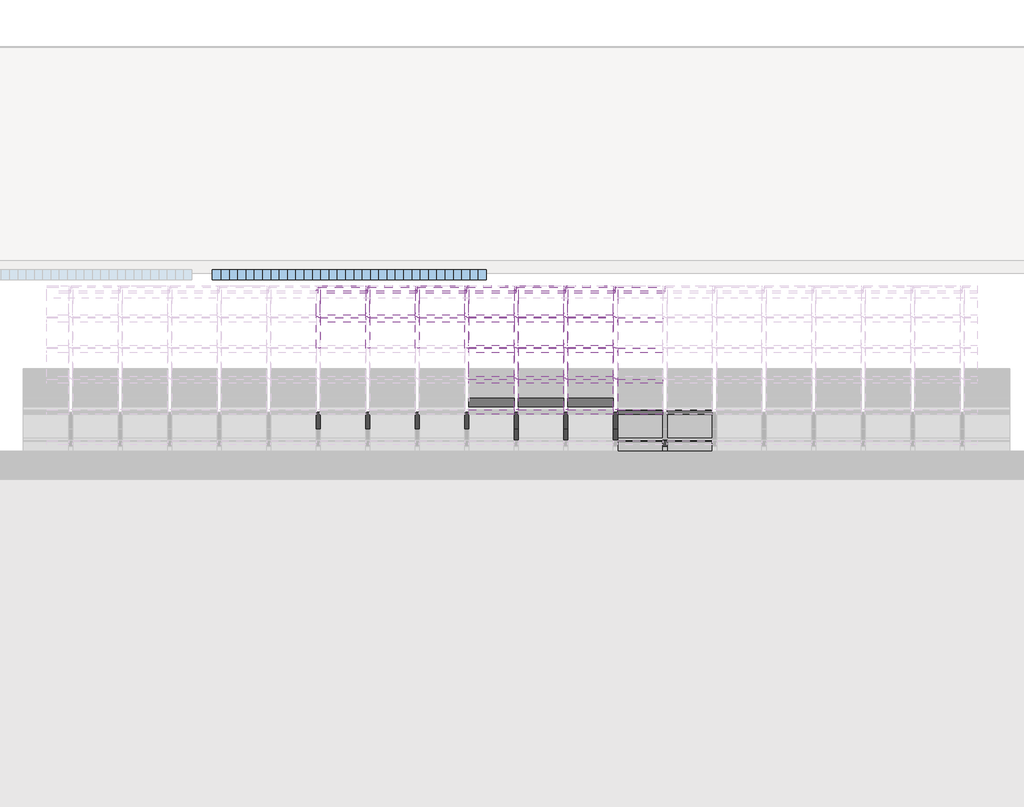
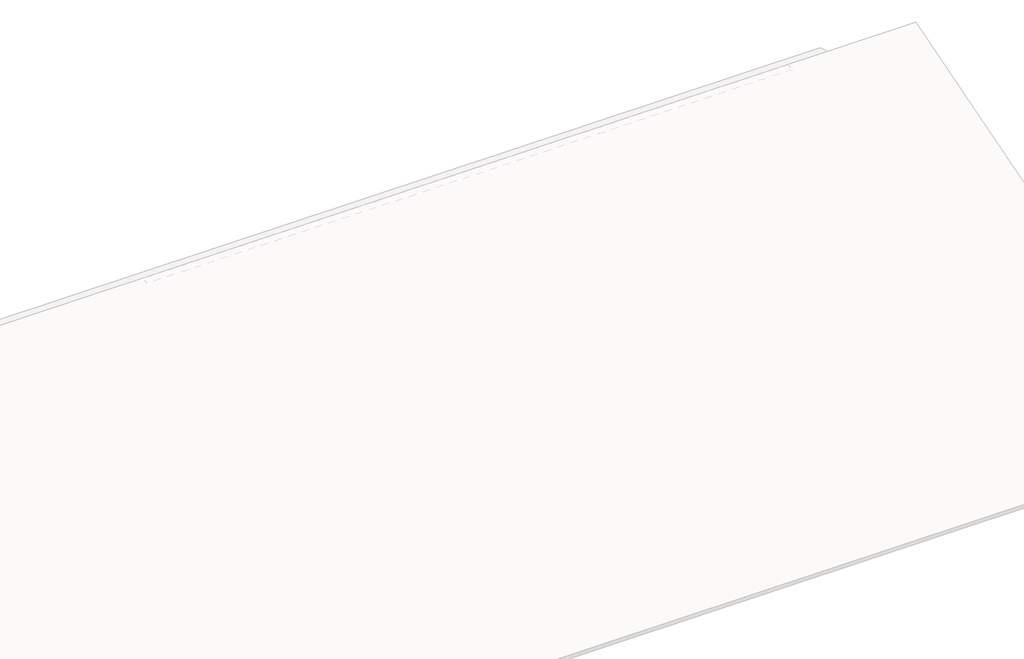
# One storey, part 50 of 57: 90 members, 31 plates, 1 window.
"""IFC4 building model written with IfcOpenShell, lengths in millimetres."""

from ifc_helpers import new_model, si_unit, origin, place, context, project, spatial, transform, mapped, element, save
from components import rectangular_mullion_4c4137b9, rectangular_mullion_59984080, rectangular_mullion_3ac3718c, rectangular_mullion_caibro_df98490b, rectangular_mullion_caibro_e4384bba, rectangular_mullion_caibro_0993a3cf, rectangular_mullion_caibro_650698a1, empty_system_panel_vazio_178faf58, window_60306791, window_6c828501, window_02d14e1e

model = new_model("IFC4")

# Units and contexts
model_context = context("Model", 3, world=origin())
ifc_project = project(units=[si_unit("LENGTHUNIT", "METRE", prefix="MILLI")], contexts=[model_context])

# Site, building, storey
site = spatial("IfcSite", under=ifc_project)
building = spatial("IfcBuilding", under=site)
storey = spatial("IfcBuildingStorey", under=building, Name="Nível 2", Elevation=4100.0)

# Members
placement = place(None, origin())
rectangular_mullion_shape = rectangular_mullion_4c4137b9(model_context)
element("IfcMember", 1, ObjectType="Rectangular Mullion : Ripa", at=placement, inside=storey, context=model_context, shape_type="MappedRepresentation", body=[
    mapped(rectangular_mullion_shape, transform((32201.4732298, 15566.1284427, 5819.8877114), x_axis=(0.0, 0.9578262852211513, 0.2873478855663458), y_axis=(0.0, 0.2873478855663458, -0.9578262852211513), z_axis=(-1.0, 0.0, 0.0))),
])
element("IfcMember", 2, ObjectType="Rectangular Mullion : Ripa", at=placement, inside=storey, context=model_context, shape_type="MappedRepresentation", body=[
    mapped(rectangular_mullion_shape, transform((32798.5279863, 15566.1284427, 5819.8877114), x_axis=(0.0, 0.9578262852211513, 0.2873478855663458), y_axis=(0.0, 0.2873478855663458, -0.9578262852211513), z_axis=(-1.0, 0.0, 0.0))),
])
element("IfcMember", 3, ObjectType="Rectangular Mullion : Ripa", at=placement, inside=storey, context=model_context, shape_type="MappedRepresentation", body=[
    mapped(rectangular_mullion_shape, transform((33395.5827427, 15566.1284427, 5819.8877114), x_axis=(0.0, 0.9578262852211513, 0.2873478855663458), y_axis=(0.0, 0.2873478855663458, -0.9578262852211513), z_axis=(-1.0, 0.0, 0.0))),
])
element("IfcMember", 4, ObjectType="Rectangular Mullion : Ripa", at=placement, inside=storey, context=model_context, shape_type="MappedRepresentation", body=[
    mapped(rectangular_mullion_shape, transform((33992.6374991, 15566.1284427, 5819.8877114), x_axis=(0.0, 0.9578262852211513, 0.2873478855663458), y_axis=(0.0, 0.2873478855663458, -0.9578262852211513), z_axis=(-1.0, 0.0, 0.0))),
])
element("IfcMember", 5, ObjectType="Rectangular Mullion : Ripa", at=placement, inside=storey, context=model_context, shape_type="MappedRepresentation", body=[
    mapped(rectangular_mullion_shape, transform((34589.6922555, 15566.1284427, 5819.8877114), x_axis=(0.0, 0.9578262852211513, 0.2873478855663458), y_axis=(0.0, 0.2873478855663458, -0.9578262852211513), z_axis=(-1.0, 0.0, 0.0))),
])
element("IfcMember", 6, ObjectType="Rectangular Mullion : Ripa", at=placement, inside=storey, context=model_context, shape_type="MappedRepresentation", body=[
    mapped(rectangular_mullion_shape, transform((35186.747012, 15566.1284427, 5819.8877114), x_axis=(0.0, 0.9578262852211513, 0.2873478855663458), y_axis=(0.0, 0.2873478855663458, -0.9578262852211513), z_axis=(-1.0, 0.0, 0.0))),
])
element("IfcMember", 7, ObjectType="Rectangular Mullion : Ripa", at=placement, inside=storey, context=model_context, shape_type="MappedRepresentation", body=[
    mapped(rectangular_mullion_shape, transform((35783.8017684, 15566.1284427, 5819.8877114), x_axis=(0.0, 0.9578262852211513, 0.2873478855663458), y_axis=(0.0, 0.2873478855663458, -0.9578262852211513), z_axis=(-1.0, 0.0, 0.0))),
])
rectangular_mullion_2_shape = rectangular_mullion_59984080(model_context)
element("IfcMember", 8, ObjectType="Rectangular Mullion : Ripa", at=placement, inside=storey, context=model_context, shape_type="MappedRepresentation", body=[
    mapped(rectangular_mullion_2_shape, transform((36405.8565248, 12234.5331147, 4820.409113), x_axis=(0.0, 0.9578262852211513, 0.2873478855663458), y_axis=(0.0, 0.2873478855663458, -0.9578262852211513), z_axis=(-1.0, 0.0, 0.0))),
])
element("IfcMember", 9, ObjectType="Rectangular Mullion : Ripa", at=placement, inside=storey, context=model_context, shape_type="MappedRepresentation", body=[
    mapped(rectangular_mullion_2_shape, transform((37002.9112812, 12234.5331147, 4820.409113), x_axis=(0.0, 0.9578262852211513, 0.2873478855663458), y_axis=(0.0, 0.2873478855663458, -0.9578262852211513), z_axis=(-1.0, 0.0, 0.0))),
])
element("IfcMember", 10, ObjectType="Rectangular Mullion : Ripa", at=placement, inside=storey, context=model_context, shape_type="MappedRepresentation", body=[
    mapped(rectangular_mullion_2_shape, transform((37599.9660377, 12234.5331147, 4820.409113), x_axis=(0.0, 0.9578262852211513, 0.2873478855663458), y_axis=(0.0, 0.2873478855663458, -0.9578262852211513), z_axis=(-1.0, 0.0, 0.0))),
])
element("IfcMember", 11, ObjectType="Rectangular Mullion : Ripa", at=placement, inside=storey, context=model_context, shape_type="MappedRepresentation", body=[
    mapped(rectangular_mullion_2_shape, transform((36405.8565248, 12604.7103734, 4931.4622906), x_axis=(0.0, 0.9578262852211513, 0.2873478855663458), y_axis=(0.0, 0.2873478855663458, -0.9578262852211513), z_axis=(-1.0, 0.0, 0.0))),
])
element("IfcMember", 12, ObjectType="Rectangular Mullion : Ripa", at=placement, inside=storey, context=model_context, shape_type="MappedRepresentation", body=[
    mapped(rectangular_mullion_2_shape, transform((37002.9112812, 12604.7103734, 4931.4622906), x_axis=(0.0, 0.9578262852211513, 0.2873478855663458), y_axis=(0.0, 0.2873478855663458, -0.9578262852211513), z_axis=(-1.0, 0.0, 0.0))),
])
element("IfcMember", 13, ObjectType="Rectangular Mullion : Ripa", at=placement, inside=storey, context=model_context, shape_type="MappedRepresentation", body=[
    mapped(rectangular_mullion_2_shape, transform((37599.9660377, 12604.7103734, 4931.4622906), x_axis=(0.0, 0.9578262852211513, 0.2873478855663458), y_axis=(0.0, 0.2873478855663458, -0.9578262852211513), z_axis=(-1.0, 0.0, 0.0))),
])
element("IfcMember", 14, ObjectType="Rectangular Mullion : Ripa", at=placement, inside=storey, context=model_context, shape_type="MappedRepresentation", body=[
    mapped(rectangular_mullion_2_shape, transform((36405.8565248, 12974.8876321, 5042.5154682), x_axis=(0.0, 0.9578262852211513, 0.2873478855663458), y_axis=(0.0, 0.2873478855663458, -0.9578262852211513), z_axis=(-1.0, 0.0, 0.0))),
])
element("IfcMember", 15, ObjectType="Rectangular Mullion : Ripa", at=placement, inside=storey, context=model_context, shape_type="MappedRepresentation", body=[
    mapped(rectangular_mullion_2_shape, transform((37002.9112812, 12974.8876321, 5042.5154682), x_axis=(0.0, 0.9578262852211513, 0.2873478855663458), y_axis=(0.0, 0.2873478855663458, -0.9578262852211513), z_axis=(-1.0, 0.0, 0.0))),
])
element("IfcMember", 16, ObjectType="Rectangular Mullion : Ripa", at=placement, inside=storey, context=model_context, shape_type="MappedRepresentation", body=[
    mapped(rectangular_mullion_2_shape, transform((37599.9660377, 12974.8876321, 5042.5154682), x_axis=(0.0, 0.9578262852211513, 0.2873478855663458), y_axis=(0.0, 0.2873478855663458, -0.9578262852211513), z_axis=(-1.0, 0.0, 0.0))),
])
element("IfcMember", 17, ObjectType="Rectangular Mullion : Ripa", at=placement, inside=storey, context=model_context, shape_type="MappedRepresentation", body=[
    mapped(rectangular_mullion_2_shape, transform((34017.6374991, 14085.4194081, 5375.675001), x_axis=(0.0, 0.9578262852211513, 0.2873478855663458), y_axis=(0.0, 0.2873478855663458, -0.9578262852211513), z_axis=(-1.0, 0.0, 0.0))),
])
element("IfcMember", 18, ObjectType="Rectangular Mullion : Ripa", at=placement, inside=storey, context=model_context, shape_type="MappedRepresentation", body=[
    mapped(rectangular_mullion_2_shape, transform((34614.6922555, 14085.4194081, 5375.675001), x_axis=(0.0, 0.9578262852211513, 0.2873478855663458), y_axis=(0.0, 0.2873478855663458, -0.9578262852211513), z_axis=(-1.0, 0.0, 0.0))),
])
element("IfcMember", 19, ObjectType="Rectangular Mullion : Ripa", at=placement, inside=storey, context=model_context, shape_type="MappedRepresentation", body=[
    mapped(rectangular_mullion_2_shape, transform((35211.747012, 14085.4194081, 5375.675001), x_axis=(0.0, 0.9578262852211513, 0.2873478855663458), y_axis=(0.0, 0.2873478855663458, -0.9578262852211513), z_axis=(-1.0, 0.0, 0.0))),
])
element("IfcMember", 20, ObjectType="Rectangular Mullion : Ripa", at=placement, inside=storey, context=model_context, shape_type="MappedRepresentation", body=[
    mapped(rectangular_mullion_2_shape, transform((35808.8017684, 14085.4194081, 5375.675001), x_axis=(0.0, 0.9578262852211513, 0.2873478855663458), y_axis=(0.0, 0.2873478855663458, -0.9578262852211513), z_axis=(-1.0, 0.0, 0.0))),
])
element("IfcMember", 21, ObjectType="Rectangular Mullion : Ripa", at=placement, inside=storey, context=model_context, shape_type="MappedRepresentation", body=[
    mapped(rectangular_mullion_2_shape, transform((34017.6374991, 14455.5966667, 5486.7281786), x_axis=(0.0, 0.9578262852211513, 0.2873478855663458), y_axis=(0.0, 0.2873478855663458, -0.9578262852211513), z_axis=(-1.0, 0.0, 0.0))),
])
element("IfcMember", 22, ObjectType="Rectangular Mullion : Ripa", at=placement, inside=storey, context=model_context, shape_type="MappedRepresentation", body=[
    mapped(rectangular_mullion_2_shape, transform((34614.6922555, 14455.5966667, 5486.7281786), x_axis=(0.0, 0.9578262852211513, 0.2873478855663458), y_axis=(0.0, 0.2873478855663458, -0.9578262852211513), z_axis=(-1.0, 0.0, 0.0))),
])
element("IfcMember", 23, ObjectType="Rectangular Mullion : Ripa", at=placement, inside=storey, context=model_context, shape_type="MappedRepresentation", body=[
    mapped(rectangular_mullion_2_shape, transform((35211.747012, 14455.5966667, 5486.7281786), x_axis=(0.0, 0.9578262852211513, 0.2873478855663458), y_axis=(0.0, 0.2873478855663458, -0.9578262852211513), z_axis=(-1.0, 0.0, 0.0))),
])
element("IfcMember", 24, ObjectType="Rectangular Mullion : Ripa", at=placement, inside=storey, context=model_context, shape_type="MappedRepresentation", body=[
    mapped(rectangular_mullion_2_shape, transform((35808.8017684, 14455.5966667, 5486.7281786), x_axis=(0.0, 0.9578262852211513, 0.2873478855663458), y_axis=(0.0, 0.2873478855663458, -0.9578262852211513), z_axis=(-1.0, 0.0, 0.0))),
])
element("IfcMember", 25, ObjectType="Rectangular Mullion : Ripa", at=placement, inside=storey, context=model_context, shape_type="MappedRepresentation", body=[
    mapped(rectangular_mullion_2_shape, transform((34017.6374991, 14825.7739254, 5597.7813562), x_axis=(0.0, 0.9578262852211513, 0.2873478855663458), y_axis=(0.0, 0.2873478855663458, -0.9578262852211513), z_axis=(-1.0, 0.0, 0.0))),
])
element("IfcMember", 26, ObjectType="Rectangular Mullion : Ripa", at=placement, inside=storey, context=model_context, shape_type="MappedRepresentation", body=[
    mapped(rectangular_mullion_2_shape, transform((34614.6922555, 14825.7739254, 5597.7813562), x_axis=(0.0, 0.9578262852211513, 0.2873478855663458), y_axis=(0.0, 0.2873478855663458, -0.9578262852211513), z_axis=(-1.0, 0.0, 0.0))),
])
element("IfcMember", 27, ObjectType="Rectangular Mullion : Ripa", at=placement, inside=storey, context=model_context, shape_type="MappedRepresentation", body=[
    mapped(rectangular_mullion_2_shape, transform((35211.747012, 14825.7739254, 5597.7813562), x_axis=(0.0, 0.9578262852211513, 0.2873478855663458), y_axis=(0.0, 0.2873478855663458, -0.9578262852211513), z_axis=(-1.0, 0.0, 0.0))),
])
element("IfcMember", 28, ObjectType="Rectangular Mullion : Ripa", at=placement, inside=storey, context=model_context, shape_type="MappedRepresentation", body=[
    mapped(rectangular_mullion_2_shape, transform((35808.8017684, 14825.7739254, 5597.7813562), x_axis=(0.0, 0.9578262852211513, 0.2873478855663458), y_axis=(0.0, 0.2873478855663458, -0.9578262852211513), z_axis=(-1.0, 0.0, 0.0))),
])
element("IfcMember", 29, ObjectType="Rectangular Mullion : Ripa", at=placement, inside=storey, context=model_context, shape_type="MappedRepresentation", body=[
    mapped(rectangular_mullion_2_shape, transform((32226.4732298, 15195.9511841, 5708.8345338), x_axis=(0.0, 0.9578262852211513, 0.2873478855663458), y_axis=(0.0, 0.2873478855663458, -0.9578262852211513), z_axis=(-1.0, 0.0, 0.0))),
])
element("IfcMember", 30, ObjectType="Rectangular Mullion : Ripa", at=placement, inside=storey, context=model_context, shape_type="MappedRepresentation", body=[
    mapped(rectangular_mullion_2_shape, transform((32823.5279863, 15195.9511841, 5708.8345338), x_axis=(0.0, 0.9578262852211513, 0.2873478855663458), y_axis=(0.0, 0.2873478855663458, -0.9578262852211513), z_axis=(-1.0, 0.0, 0.0))),
])
element("IfcMember", 31, ObjectType="Rectangular Mullion : Ripa", at=placement, inside=storey, context=model_context, shape_type="MappedRepresentation", body=[
    mapped(rectangular_mullion_2_shape, transform((33420.5827427, 15195.9511841, 5708.8345338), x_axis=(0.0, 0.9578262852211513, 0.2873478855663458), y_axis=(0.0, 0.2873478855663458, -0.9578262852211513), z_axis=(-1.0, 0.0, 0.0))),
])
element("IfcMember", 32, ObjectType="Rectangular Mullion : Ripa", at=placement, inside=storey, context=model_context, shape_type="MappedRepresentation", body=[
    mapped(rectangular_mullion_2_shape, transform((34017.6374991, 15195.9511841, 5708.8345338), x_axis=(0.0, 0.9578262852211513, 0.2873478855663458), y_axis=(0.0, 0.2873478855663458, -0.9578262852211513), z_axis=(-1.0, 0.0, 0.0))),
])
element("IfcMember", 33, ObjectType="Rectangular Mullion : Ripa", at=placement, inside=storey, context=model_context, shape_type="MappedRepresentation", body=[
    mapped(rectangular_mullion_2_shape, transform((34614.6922555, 15195.9511841, 5708.8345338), x_axis=(0.0, 0.9578262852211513, 0.2873478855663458), y_axis=(0.0, 0.2873478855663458, -0.9578262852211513), z_axis=(-1.0, 0.0, 0.0))),
])
element("IfcMember", 34, ObjectType="Rectangular Mullion : Ripa", at=placement, inside=storey, context=model_context, shape_type="MappedRepresentation", body=[
    mapped(rectangular_mullion_2_shape, transform((35211.747012, 15195.9511841, 5708.8345338), x_axis=(0.0, 0.9578262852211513, 0.2873478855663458), y_axis=(0.0, 0.2873478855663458, -0.9578262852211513), z_axis=(-1.0, 0.0, 0.0))),
])
element("IfcMember", 35, ObjectType="Rectangular Mullion : Ripa", at=placement, inside=storey, context=model_context, shape_type="MappedRepresentation", body=[
    mapped(rectangular_mullion_2_shape, transform((35808.8017684, 15195.9511841, 5708.8345338), x_axis=(0.0, 0.9578262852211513, 0.2873478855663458), y_axis=(0.0, 0.2873478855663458, -0.9578262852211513), z_axis=(-1.0, 0.0, 0.0))),
])
rectangular_mullion_3_shape = rectangular_mullion_3ac3718c(model_context)
element("IfcMember", 36, ObjectType="Rectangular Mullion : Terça", at=placement, inside=storey, context=model_context, shape_type="MappedRepresentation", body=[
    mapped(rectangular_mullion_3_shape, transform((32201.4732298, 15566.1284427, 5757.2458723), x_axis=(0.0, 0.9578262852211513, 0.2873478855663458), y_axis=(0.0, 0.2873478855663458, -0.9578262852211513), z_axis=(-1.0, 0.0, 0.0))),
])
element("IfcMember", 37, ObjectType="Rectangular Mullion : Terça", at=placement, inside=storey, context=model_context, shape_type="MappedRepresentation", body=[
    mapped(rectangular_mullion_3_shape, transform((32798.5279863, 15566.1284427, 5757.2458723), x_axis=(0.0, 0.9578262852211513, 0.2873478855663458), y_axis=(0.0, 0.2873478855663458, -0.9578262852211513), z_axis=(-1.0, 0.0, 0.0))),
])
element("IfcMember", 38, ObjectType="Rectangular Mullion : Terça", at=placement, inside=storey, context=model_context, shape_type="MappedRepresentation", body=[
    mapped(rectangular_mullion_3_shape, transform((33395.5827427, 15566.1284427, 5757.2458723), x_axis=(0.0, 0.9578262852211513, 0.2873478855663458), y_axis=(0.0, 0.2873478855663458, -0.9578262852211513), z_axis=(-1.0, 0.0, 0.0))),
])
element("IfcMember", 39, ObjectType="Rectangular Mullion : Terça", at=placement, inside=storey, context=model_context, shape_type="MappedRepresentation", body=[
    mapped(rectangular_mullion_3_shape, transform((33992.6374991, 15566.1284427, 5757.2458723), x_axis=(0.0, 0.9578262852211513, 0.2873478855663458), y_axis=(0.0, 0.2873478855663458, -0.9578262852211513), z_axis=(-1.0, 0.0, 0.0))),
])
element("IfcMember", 40, ObjectType="Rectangular Mullion : Terça", at=placement, inside=storey, context=model_context, shape_type="MappedRepresentation", body=[
    mapped(rectangular_mullion_3_shape, transform((34589.6922555, 15566.1284427, 5757.2458723), x_axis=(0.0, 0.9578262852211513, 0.2873478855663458), y_axis=(0.0, 0.2873478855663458, -0.9578262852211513), z_axis=(-1.0, 0.0, 0.0))),
])
element("IfcMember", 41, ObjectType="Rectangular Mullion : Terça", at=placement, inside=storey, context=model_context, shape_type="MappedRepresentation", body=[
    mapped(rectangular_mullion_3_shape, transform((35186.747012, 15566.1284427, 5757.2458723), x_axis=(0.0, 0.9578262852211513, 0.2873478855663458), y_axis=(0.0, 0.2873478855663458, -0.9578262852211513), z_axis=(-1.0, 0.0, 0.0))),
])
element("IfcMember", 42, ObjectType="Rectangular Mullion : Terça", at=placement, inside=storey, context=model_context, shape_type="MappedRepresentation", body=[
    mapped(rectangular_mullion_3_shape, transform((35783.8017684, 15566.1284427, 5757.2458723), x_axis=(0.0, 0.9578262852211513, 0.2873478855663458), y_axis=(0.0, 0.2873478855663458, -0.9578262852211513), z_axis=(-1.0, 0.0, 0.0))),
])
rectangular_mullion_caibro_shape = rectangular_mullion_caibro_df98490b(model_context)
element("IfcMember", 43, ObjectType="Rectangular Mullion : Caibro", at=placement, inside=storey, context=model_context, shape_type="MappedRepresentation", body=[
    mapped(rectangular_mullion_caibro_shape, transform((32201.4732298, 15518.2371285, 5805.5203171), x_axis=(1.0, 0.0, 0.0), y_axis=(0.0, 0.28734788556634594, -0.9578262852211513), z_axis=(0.0, 0.9578262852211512, 0.2873478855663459))),
])
element("IfcMember", 44, ObjectType="Rectangular Mullion : Caibro", at=placement, inside=storey, context=model_context, shape_type="MappedRepresentation", body=[
    mapped(rectangular_mullion_caibro_shape, transform((32798.5279863, 15518.2371285, 5805.5203171), x_axis=(1.0, 0.0, 0.0), y_axis=(0.0, 0.28734788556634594, -0.9578262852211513), z_axis=(0.0, 0.9578262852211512, 0.2873478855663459))),
])
element("IfcMember", 45, ObjectType="Rectangular Mullion : Caibro", at=placement, inside=storey, context=model_context, shape_type="MappedRepresentation", body=[
    mapped(rectangular_mullion_caibro_shape, transform((33395.5827427, 15518.2371285, 5805.5203171), x_axis=(1.0, 0.0, 0.0), y_axis=(0.0, 0.28734788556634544, -0.9578262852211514), z_axis=(0.0, 0.9578262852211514, 0.28734788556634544))),
])
element("IfcMember", 46, ObjectType="Rectangular Mullion : Caibro", at=placement, inside=storey, context=model_context, shape_type="MappedRepresentation", body=[
    mapped(rectangular_mullion_caibro_shape, transform((33992.6374991, 15518.2371285, 5805.5203171), x_axis=(1.0, 0.0, 0.0), y_axis=(0.0, 0.28734788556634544, -0.9578262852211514), z_axis=(0.0, 0.9578262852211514, 0.28734788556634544))),
])
element("IfcMember", 47, ObjectType="Rectangular Mullion : Caibro", at=placement, inside=storey, context=model_context, shape_type="MappedRepresentation", body=[
    mapped(rectangular_mullion_caibro_shape, transform((34589.6922555, 15518.2371285, 5805.5203171), x_axis=(1.0, 0.0, 0.0), y_axis=(0.0, 0.28734788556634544, -0.9578262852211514), z_axis=(0.0, 0.9578262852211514, 0.28734788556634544))),
])
element("IfcMember", 48, ObjectType="Rectangular Mullion : Caibro", at=placement, inside=storey, context=model_context, shape_type="MappedRepresentation", body=[
    mapped(rectangular_mullion_caibro_shape, transform((35186.747012, 15518.2371285, 5805.5203171), x_axis=(1.0, 0.0, 0.0), y_axis=(0.0, 0.28734788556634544, -0.9578262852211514), z_axis=(0.0, 0.9578262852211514, 0.28734788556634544))),
])
element("IfcMember", 49, ObjectType="Rectangular Mullion : Caibro", at=placement, inside=storey, context=model_context, shape_type="MappedRepresentation", body=[
    mapped(rectangular_mullion_caibro_shape, transform((35783.8017684, 15518.2371285, 5805.5203171), x_axis=(1.0, 0.0, 0.0), y_axis=(0.0, 0.28734788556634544, -0.9578262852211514), z_axis=(0.0, 0.9578262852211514, 0.28734788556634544))),
])
rectangular_mullion_caibro_2_shape = rectangular_mullion_caibro_e4384bba(model_context)
element("IfcMember", 50, ObjectType="Rectangular Mullion : Caibro", at=placement, inside=storey, context=model_context, shape_type="MappedRepresentation", body=[
    mapped(rectangular_mullion_caibro_2_shape, transform((32201.4732298, 15195.9511841, 5708.8345338), x_axis=(1.0, 0.0, 0.0), y_axis=(0.0, 0.28734788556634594, -0.9578262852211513), z_axis=(0.0, 0.9578262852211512, 0.2873478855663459))),
])
element("IfcMember", 51, ObjectType="Rectangular Mullion : Caibro", at=placement, inside=storey, context=model_context, shape_type="MappedRepresentation", body=[
    mapped(rectangular_mullion_caibro_2_shape, transform((32798.5279863, 15195.9511841, 5708.8345338), x_axis=(1.0, 0.0, 0.0), y_axis=(0.0, 0.28734788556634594, -0.9578262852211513), z_axis=(0.0, 0.9578262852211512, 0.2873478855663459))),
])
element("IfcMember", 52, ObjectType="Rectangular Mullion : Caibro", at=placement, inside=storey, context=model_context, shape_type="MappedRepresentation", body=[
    mapped(rectangular_mullion_caibro_2_shape, transform((33395.5827427, 15195.9511841, 5708.8345338), x_axis=(1.0, 0.0, 0.0), y_axis=(0.0, 0.28734788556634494, -0.9578262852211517), z_axis=(0.0, 0.9578262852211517, 0.28734788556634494))),
])
element("IfcMember", 53, ObjectType="Rectangular Mullion : Caibro", at=placement, inside=storey, context=model_context, shape_type="MappedRepresentation", body=[
    mapped(rectangular_mullion_caibro_2_shape, transform((33992.6374991, 15195.9511841, 5708.8345338), x_axis=(1.0, 0.0, 0.0), y_axis=(0.0, 0.28734788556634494, -0.9578262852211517), z_axis=(0.0, 0.9578262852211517, 0.28734788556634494))),
])
element("IfcMember", 54, ObjectType="Rectangular Mullion : Caibro", at=placement, inside=storey, context=model_context, shape_type="MappedRepresentation", body=[
    mapped(rectangular_mullion_caibro_2_shape, transform((34589.6922555, 14085.4194081, 5375.675001), x_axis=(1.0, 0.0, 0.0), y_axis=(0.0, 0.28734788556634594, -0.9578262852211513), z_axis=(0.0, 0.9578262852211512, 0.2873478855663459))),
])
element("IfcMember", 55, ObjectType="Rectangular Mullion : Caibro", at=placement, inside=storey, context=model_context, shape_type="MappedRepresentation", body=[
    mapped(rectangular_mullion_caibro_2_shape, transform((34589.6922555, 14455.5966667, 5486.7281786), x_axis=(1.0, 0.0, 0.0), y_axis=(0.0, 0.2873478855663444, -0.9578262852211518), z_axis=(0.0, 0.9578262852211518, 0.2873478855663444))),
])
element("IfcMember", 56, ObjectType="Rectangular Mullion : Caibro", at=placement, inside=storey, context=model_context, shape_type="MappedRepresentation", body=[
    mapped(rectangular_mullion_caibro_2_shape, transform((34589.6922555, 14825.7739254, 5597.7813562), x_axis=(1.0, 0.0, 0.0), y_axis=(0.0, 0.287347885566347, -0.9578262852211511), z_axis=(0.0, 0.9578262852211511, 0.287347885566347))),
])
element("IfcMember", 57, ObjectType="Rectangular Mullion : Caibro", at=placement, inside=storey, context=model_context, shape_type="MappedRepresentation", body=[
    mapped(rectangular_mullion_caibro_2_shape, transform((34589.6922555, 15195.9511841, 5708.8345338), x_axis=(1.0, 0.0, 0.0), y_axis=(0.0, 0.28734788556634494, -0.9578262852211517), z_axis=(0.0, 0.9578262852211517, 0.28734788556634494))),
])
element("IfcMember", 58, ObjectType="Rectangular Mullion : Caibro", at=placement, inside=storey, context=model_context, shape_type="MappedRepresentation", body=[
    mapped(rectangular_mullion_caibro_2_shape, transform((35186.747012, 14085.4194081, 5375.675001), x_axis=(1.0, 0.0, 0.0), y_axis=(0.0, 0.28734788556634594, -0.9578262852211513), z_axis=(0.0, 0.9578262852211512, 0.2873478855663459))),
])
element("IfcMember", 59, ObjectType="Rectangular Mullion : Caibro", at=placement, inside=storey, context=model_context, shape_type="MappedRepresentation", body=[
    mapped(rectangular_mullion_caibro_2_shape, transform((35186.747012, 14455.5966667, 5486.7281786), x_axis=(1.0, 0.0, 0.0), y_axis=(0.0, 0.2873478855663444, -0.9578262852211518), z_axis=(0.0, 0.9578262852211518, 0.2873478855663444))),
])
element("IfcMember", 60, ObjectType="Rectangular Mullion : Caibro", at=placement, inside=storey, context=model_context, shape_type="MappedRepresentation", body=[
    mapped(rectangular_mullion_caibro_2_shape, transform((35186.747012, 14825.7739254, 5597.7813562), x_axis=(1.0, 0.0, 0.0), y_axis=(0.0, 0.287347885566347, -0.9578262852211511), z_axis=(0.0, 0.9578262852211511, 0.287347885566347))),
])
element("IfcMember", 61, ObjectType="Rectangular Mullion : Caibro", at=placement, inside=storey, context=model_context, shape_type="MappedRepresentation", body=[
    mapped(rectangular_mullion_caibro_2_shape, transform((35186.747012, 15195.9511841, 5708.8345338), x_axis=(1.0, 0.0, 0.0), y_axis=(0.0, 0.28734788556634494, -0.9578262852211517), z_axis=(0.0, 0.9578262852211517, 0.28734788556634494))),
])
element("IfcMember", 62, ObjectType="Rectangular Mullion : Caibro", at=placement, inside=storey, context=model_context, shape_type="MappedRepresentation", body=[
    mapped(rectangular_mullion_caibro_2_shape, transform((35783.8017684, 14085.4194081, 5375.675001), x_axis=(1.0, 0.0, 0.0), y_axis=(0.0, 0.28734788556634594, -0.9578262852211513), z_axis=(0.0, 0.9578262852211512, 0.2873478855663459))),
])
element("IfcMember", 63, ObjectType="Rectangular Mullion : Caibro", at=placement, inside=storey, context=model_context, shape_type="MappedRepresentation", body=[
    mapped(rectangular_mullion_caibro_2_shape, transform((35783.8017684, 14455.5966667, 5486.7281786), x_axis=(1.0, 0.0, 0.0), y_axis=(0.0, 0.2873478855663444, -0.9578262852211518), z_axis=(0.0, 0.9578262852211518, 0.2873478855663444))),
])
element("IfcMember", 64, ObjectType="Rectangular Mullion : Caibro", at=placement, inside=storey, context=model_context, shape_type="MappedRepresentation", body=[
    mapped(rectangular_mullion_caibro_2_shape, transform((35783.8017684, 14825.7739254, 5597.7813562), x_axis=(1.0, 0.0, 0.0), y_axis=(0.0, 0.287347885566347, -0.9578262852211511), z_axis=(0.0, 0.9578262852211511, 0.287347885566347))),
])
element("IfcMember", 65, ObjectType="Rectangular Mullion : Caibro", at=placement, inside=storey, context=model_context, shape_type="MappedRepresentation", body=[
    mapped(rectangular_mullion_caibro_2_shape, transform((35783.8017684, 15195.9511841, 5708.8345338), x_axis=(1.0, 0.0, 0.0), y_axis=(0.0, 0.28734788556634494, -0.9578262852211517), z_axis=(0.0, 0.9578262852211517, 0.28734788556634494))),
])
element("IfcMember", 66, ObjectType="Rectangular Mullion : Caibro", at=placement, inside=storey, context=model_context, shape_type="MappedRepresentation", body=[
    mapped(rectangular_mullion_caibro_2_shape, transform((36380.8565248, 12234.5331147, 4820.409113), x_axis=(1.0, 0.0, 0.0), y_axis=(0.0, 0.2873478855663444, -0.9578262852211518), z_axis=(0.0, 0.9578262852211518, 0.2873478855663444))),
])
element("IfcMember", 67, ObjectType="Rectangular Mullion : Caibro", at=placement, inside=storey, context=model_context, shape_type="MappedRepresentation", body=[
    mapped(rectangular_mullion_caibro_2_shape, transform((36380.8565248, 12604.7103734, 4931.4622906), x_axis=(1.0, 0.0, 0.0), y_axis=(0.0, 0.2873478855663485, -0.9578262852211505), z_axis=(0.0, 0.9578262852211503, 0.28734788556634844))),
])
element("IfcMember", 68, ObjectType="Rectangular Mullion : Caibro", at=placement, inside=storey, context=model_context, shape_type="MappedRepresentation", body=[
    mapped(rectangular_mullion_caibro_2_shape, transform((36380.8565248, 12974.8876321, 5042.5154682), x_axis=(1.0, 0.0, 0.0), y_axis=(0.0, 0.2873478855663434, -0.957826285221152), z_axis=(0.0, 0.957826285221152, 0.2873478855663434))),
])
element("IfcMember", 69, ObjectType="Rectangular Mullion : Caibro", at=placement, inside=storey, context=model_context, shape_type="MappedRepresentation", body=[
    mapped(rectangular_mullion_caibro_2_shape, transform((36380.8565248, 13345.0648907, 5153.5686458), x_axis=(1.0, 0.0, 0.0), y_axis=(0.0, 0.28734788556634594, -0.9578262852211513), z_axis=(0.0, 0.9578262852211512, 0.2873478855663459))),
])
element("IfcMember", 70, ObjectType="Rectangular Mullion : Caibro", at=placement, inside=storey, context=model_context, shape_type="MappedRepresentation", body=[
    mapped(rectangular_mullion_caibro_2_shape, transform((36380.8565248, 13715.2421494, 5264.6218234), x_axis=(1.0, 0.0, 0.0), y_axis=(0.0, 0.28734788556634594, -0.9578262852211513), z_axis=(0.0, 0.9578262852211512, 0.2873478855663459))),
])
element("IfcMember", 71, ObjectType="Rectangular Mullion : Caibro", at=placement, inside=storey, context=model_context, shape_type="MappedRepresentation", body=[
    mapped(rectangular_mullion_caibro_2_shape, transform((36977.9112812, 12234.5331147, 4820.409113), x_axis=(1.0, 0.0, 0.0), y_axis=(0.0, 0.2873478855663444, -0.9578262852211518), z_axis=(0.0, 0.9578262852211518, 0.2873478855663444))),
])
element("IfcMember", 72, ObjectType="Rectangular Mullion : Caibro", at=placement, inside=storey, context=model_context, shape_type="MappedRepresentation", body=[
    mapped(rectangular_mullion_caibro_2_shape, transform((36977.9112812, 12604.7103734, 4931.4622906), x_axis=(1.0, 0.0, 0.0), y_axis=(0.0, 0.2873478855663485, -0.9578262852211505), z_axis=(0.0, 0.9578262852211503, 0.28734788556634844))),
])
element("IfcMember", 73, ObjectType="Rectangular Mullion : Caibro", at=placement, inside=storey, context=model_context, shape_type="MappedRepresentation", body=[
    mapped(rectangular_mullion_caibro_2_shape, transform((36977.9112812, 12974.8876321, 5042.5154682), x_axis=(1.0, 0.0, 0.0), y_axis=(0.0, 0.2873478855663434, -0.957826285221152), z_axis=(0.0, 0.957826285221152, 0.2873478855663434))),
])
element("IfcMember", 74, ObjectType="Rectangular Mullion : Caibro", at=placement, inside=storey, context=model_context, shape_type="MappedRepresentation", body=[
    mapped(rectangular_mullion_caibro_2_shape, transform((37574.9660377, 12234.5331147, 4820.409113), x_axis=(1.0, 0.0, 0.0), y_axis=(0.0, 0.2873478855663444, -0.9578262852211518), z_axis=(0.0, 0.9578262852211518, 0.2873478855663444))),
])
element("IfcMember", 75, ObjectType="Rectangular Mullion : Caibro", at=placement, inside=storey, context=model_context, shape_type="MappedRepresentation", body=[
    mapped(rectangular_mullion_caibro_2_shape, transform((37574.9660377, 12604.7103734, 4931.4622906), x_axis=(1.0, 0.0, 0.0), y_axis=(0.0, 0.2873478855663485, -0.9578262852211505), z_axis=(0.0, 0.9578262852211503, 0.28734788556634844))),
])
element("IfcMember", 76, ObjectType="Rectangular Mullion : Caibro", at=placement, inside=storey, context=model_context, shape_type="MappedRepresentation", body=[
    mapped(rectangular_mullion_caibro_2_shape, transform((37574.9660377, 12974.8876321, 5042.5154682), x_axis=(1.0, 0.0, 0.0), y_axis=(0.0, 0.2873478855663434, -0.957826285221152), z_axis=(0.0, 0.957826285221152, 0.2873478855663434))),
])
rectangular_mullion_caibro_3_shape = rectangular_mullion_caibro_0993a3cf(model_context)
element("IfcMember", 77, ObjectType="Rectangular Mullion : Caibro", at=placement, inside=storey, context=model_context, shape_type="MappedRepresentation", body=[
    mapped(rectangular_mullion_caibro_3_shape, transform((32201.4732298, 15508.6588656, 5740.0049992), x_axis=(1.0, 0.0, 0.0), y_axis=(0.0, 0.28734788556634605, -0.9578262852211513), z_axis=(0.0, 0.9578262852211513, 0.28734788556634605))),
])
element("IfcMember", 78, ObjectType="Rectangular Mullion : Caibro", at=placement, inside=storey, context=model_context, shape_type="MappedRepresentation", body=[
    mapped(rectangular_mullion_caibro_3_shape, transform((32798.5279863, 15508.6588656, 5740.0049992), x_axis=(1.0, 0.0, 0.0), y_axis=(0.0, 0.28734788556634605, -0.9578262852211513), z_axis=(0.0, 0.9578262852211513, 0.28734788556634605))),
])
element("IfcMember", 79, ObjectType="Rectangular Mullion : Caibro", at=placement, inside=storey, context=model_context, shape_type="MappedRepresentation", body=[
    mapped(rectangular_mullion_caibro_3_shape, transform((33395.5827427, 15508.6588656, 5740.0049992), x_axis=(1.0, 0.0, 0.0), y_axis=(0.0, 0.28734788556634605, -0.9578262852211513), z_axis=(0.0, 0.9578262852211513, 0.28734788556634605))),
])
element("IfcMember", 80, ObjectType="Rectangular Mullion : Caibro", at=placement, inside=storey, context=model_context, shape_type="MappedRepresentation", body=[
    mapped(rectangular_mullion_caibro_3_shape, transform((33992.6374991, 15508.6588656, 5740.0049992), x_axis=(1.0, 0.0, 0.0), y_axis=(0.0, 0.28734788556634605, -0.9578262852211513), z_axis=(0.0, 0.9578262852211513, 0.28734788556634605))),
])
element("IfcMember", 81, ObjectType="Rectangular Mullion : Caibro", at=placement, inside=storey, context=model_context, shape_type="MappedRepresentation", body=[
    mapped(rectangular_mullion_caibro_3_shape, transform((34589.6922555, 15508.6588656, 5740.0049992), x_axis=(1.0, 0.0, 0.0), y_axis=(0.0, 0.28734788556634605, -0.9578262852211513), z_axis=(0.0, 0.9578262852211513, 0.28734788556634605))),
])
element("IfcMember", 82, ObjectType="Rectangular Mullion : Caibro", at=placement, inside=storey, context=model_context, shape_type="MappedRepresentation", body=[
    mapped(rectangular_mullion_caibro_3_shape, transform((35186.747012, 15508.6588656, 5740.0049992), x_axis=(1.0, 0.0, 0.0), y_axis=(0.0, 0.28734788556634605, -0.9578262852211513), z_axis=(0.0, 0.9578262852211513, 0.28734788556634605))),
])
element("IfcMember", 83, ObjectType="Rectangular Mullion : Caibro", at=placement, inside=storey, context=model_context, shape_type="MappedRepresentation", body=[
    mapped(rectangular_mullion_caibro_3_shape, transform((35783.8017684, 15508.6588656, 5740.0049992), x_axis=(1.0, 0.0, 0.0), y_axis=(0.0, 0.28734788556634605, -0.9578262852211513), z_axis=(0.0, 0.9578262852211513, 0.28734788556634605))),
])
rectangular_mullion_caibro_4_shape = rectangular_mullion_caibro_650698a1(model_context)
element("IfcMember", 84, ObjectType="Rectangular Mullion : Caibro", at=placement, inside=storey, context=model_context, shape_type="MappedRepresentation", body=[
    mapped(rectangular_mullion_caibro_4_shape, transform((35780.6961444, 15772.0058221, 4410.7541277), x_axis=(-1.0, 0.0, 0.0), y_axis=(0.0, -0.28734788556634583, -0.9578262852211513), z_axis=(0.0, -0.9578262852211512, 0.2873478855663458))),
])
element("IfcMember", 85, ObjectType="Rectangular Mullion : Caibro", at=placement, inside=storey, context=model_context, shape_type="MappedRepresentation", body=[
    mapped(rectangular_mullion_caibro_4_shape, transform((35183.3476428, 15772.0058221, 4410.7541277), x_axis=(-1.0, 0.0, 0.0), y_axis=(0.0, -0.28734788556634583, -0.9578262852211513), z_axis=(0.0, -0.9578262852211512, 0.2873478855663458))),
])
element("IfcMember", 86, ObjectType="Rectangular Mullion : Caibro", at=placement, inside=storey, context=model_context, shape_type="MappedRepresentation", body=[
    mapped(rectangular_mullion_caibro_4_shape, transform((34585.9991411, 15772.0058221, 4410.7541277), x_axis=(-1.0, 0.0, 0.0), y_axis=(0.0, -0.28734788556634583, -0.9578262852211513), z_axis=(0.0, -0.9578262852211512, 0.2873478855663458))),
])
element("IfcMember", 87, ObjectType="Rectangular Mullion : Caibro", at=placement, inside=storey, context=model_context, shape_type="MappedRepresentation", body=[
    mapped(rectangular_mullion_caibro_4_shape, transform((33988.6506394, 15772.0058221, 4410.7541277), x_axis=(-1.0, 0.0, 0.0), y_axis=(0.0, -0.28734788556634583, -0.9578262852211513), z_axis=(0.0, -0.9578262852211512, 0.2873478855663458))),
])
element("IfcMember", 88, ObjectType="Rectangular Mullion : Caibro", at=placement, inside=storey, context=model_context, shape_type="MappedRepresentation", body=[
    mapped(rectangular_mullion_caibro_4_shape, transform((33391.3021378, 15772.0058221, 4410.7541277), x_axis=(-1.0, 0.0, 0.0), y_axis=(0.0, -0.28734788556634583, -0.9578262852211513), z_axis=(0.0, -0.9578262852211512, 0.2873478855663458))),
])
element("IfcMember", 89, ObjectType="Rectangular Mullion : Caibro", at=placement, inside=storey, context=model_context, shape_type="MappedRepresentation", body=[
    mapped(rectangular_mullion_caibro_4_shape, transform((32793.9536361, 15772.0058221, 4410.7541277), x_axis=(-1.0, 0.0, 0.0), y_axis=(0.0, -0.28734788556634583, -0.9578262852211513), z_axis=(0.0, -0.9578262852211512, 0.2873478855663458))),
])
element("IfcMember", 90, ObjectType="Rectangular Mullion : Caibro", at=placement, inside=storey, context=model_context, shape_type="MappedRepresentation", body=[
    mapped(rectangular_mullion_caibro_4_shape, transform((32196.6051344, 15772.0058221, 4410.7541277), x_axis=(-1.0, 0.0, 0.0), y_axis=(0.0, -0.2873478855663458, -0.9578262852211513), z_axis=(0.0, -0.9578262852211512, 0.2873478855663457))),
])

# Plates
empty_system_panel_vazio_shape = empty_system_panel_vazio_178faf58(model_context)
element("IfcPlate", 91, ObjectType="Empty System Panel : Vazio", at=placement, inside=storey, context=model_context, shape_type="MappedRepresentation", body=[
    mapped(empty_system_panel_vazio_shape, transform((36082.3291466, 12234.5331147, 4820.409113), x_axis=(1.0, 0.0, 0.0), y_axis=(0.0, 0.2873478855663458, -0.9578262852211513), z_axis=(0.0, 0.9578262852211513, 0.2873478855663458))),
])
element("IfcPlate", 92, ObjectType="Empty System Panel : Vazio", at=placement, inside=storey, context=model_context, shape_type="MappedRepresentation", body=[
    mapped(empty_system_panel_vazio_shape, transform((36679.383903, 12234.5331147, 4820.409113), x_axis=(1.0, 0.0, 0.0), y_axis=(0.0, 0.2873478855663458, -0.9578262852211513), z_axis=(0.0, 0.9578262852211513, 0.2873478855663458))),
])
element("IfcPlate", 93, ObjectType="Empty System Panel : Vazio", at=placement, inside=storey, context=model_context, shape_type="MappedRepresentation", body=[
    mapped(empty_system_panel_vazio_shape, transform((37276.4386594, 12234.5331147, 4820.409113), x_axis=(1.0, 0.0, 0.0), y_axis=(0.0, 0.2873478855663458, -0.9578262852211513), z_axis=(0.0, 0.9578262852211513, 0.2873478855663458))),
])
element("IfcPlate", 94, ObjectType="Empty System Panel : Vazio", at=placement, inside=storey, context=model_context, shape_type="MappedRepresentation", body=[
    mapped(empty_system_panel_vazio_shape, transform((37873.4934159, 12234.5331147, 4820.409113), x_axis=(1.0, 0.0, 0.0), y_axis=(0.0, 0.2873478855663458, -0.9578262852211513), z_axis=(0.0, 0.9578262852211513, 0.2873478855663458))),
])
element("IfcPlate", 95, ObjectType="Empty System Panel : Vazio", at=placement, inside=storey, context=model_context, shape_type="MappedRepresentation", body=[
    mapped(empty_system_panel_vazio_shape, transform((36082.3291466, 12604.7103734, 4931.4622906), x_axis=(1.0, 0.0, 0.0), y_axis=(0.0, 0.2873478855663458, -0.9578262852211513), z_axis=(0.0, 0.9578262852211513, 0.2873478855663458))),
])
element("IfcPlate", 96, ObjectType="Empty System Panel : Vazio", at=placement, inside=storey, context=model_context, shape_type="MappedRepresentation", body=[
    mapped(empty_system_panel_vazio_shape, transform((36679.383903, 12604.7103734, 4931.4622906), x_axis=(1.0, 0.0, 0.0), y_axis=(0.0, 0.2873478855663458, -0.9578262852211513), z_axis=(0.0, 0.9578262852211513, 0.2873478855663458))),
])
element("IfcPlate", 97, ObjectType="Empty System Panel : Vazio", at=placement, inside=storey, context=model_context, shape_type="MappedRepresentation", body=[
    mapped(empty_system_panel_vazio_shape, transform((37276.4386594, 12604.7103734, 4931.4622906), x_axis=(1.0, 0.0, 0.0), y_axis=(0.0, 0.2873478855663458, -0.9578262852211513), z_axis=(0.0, 0.9578262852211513, 0.2873478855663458))),
])
element("IfcPlate", 98, ObjectType="Empty System Panel : Vazio", at=placement, inside=storey, context=model_context, shape_type="MappedRepresentation", body=[
    mapped(empty_system_panel_vazio_shape, transform((37873.4934159, 12604.7103734, 4931.4622906), x_axis=(1.0, 0.0, 0.0), y_axis=(0.0, 0.2873478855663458, -0.9578262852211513), z_axis=(0.0, 0.9578262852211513, 0.2873478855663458))),
])
element("IfcPlate", 99, ObjectType="Empty System Panel : Vazio", at=placement, inside=storey, context=model_context, shape_type="MappedRepresentation", body=[
    mapped(empty_system_panel_vazio_shape, transform((36082.3291466, 12974.8876321, 5042.5154682), x_axis=(1.0, 0.0, 0.0), y_axis=(0.0, 0.2873478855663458, -0.9578262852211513), z_axis=(0.0, 0.9578262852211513, 0.2873478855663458))),
])
element("IfcPlate", 100, ObjectType="Empty System Panel : Vazio", at=placement, inside=storey, context=model_context, shape_type="MappedRepresentation", body=[
    mapped(empty_system_panel_vazio_shape, transform((36679.383903, 12974.8876321, 5042.5154682), x_axis=(1.0, 0.0, 0.0), y_axis=(0.0, 0.2873478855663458, -0.9578262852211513), z_axis=(0.0, 0.9578262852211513, 0.2873478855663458))),
])
element("IfcPlate", 101, ObjectType="Empty System Panel : Vazio", at=placement, inside=storey, context=model_context, shape_type="MappedRepresentation", body=[
    mapped(empty_system_panel_vazio_shape, transform((37276.4386594, 12974.8876321, 5042.5154682), x_axis=(1.0, 0.0, 0.0), y_axis=(0.0, 0.2873478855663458, -0.9578262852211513), z_axis=(0.0, 0.9578262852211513, 0.2873478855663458))),
])
element("IfcPlate", 102, ObjectType="Empty System Panel : Vazio", at=placement, inside=storey, context=model_context, shape_type="MappedRepresentation", body=[
    mapped(empty_system_panel_vazio_shape, transform((37873.4934159, 12974.8876321, 5042.5154682), x_axis=(1.0, 0.0, 0.0), y_axis=(0.0, 0.2873478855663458, -0.9578262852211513), z_axis=(0.0, 0.9578262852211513, 0.2873478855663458))),
])
element("IfcPlate", 103, ObjectType="Empty System Panel : Vazio", at=placement, inside=storey, context=model_context, shape_type="MappedRepresentation", body=[
    mapped(empty_system_panel_vazio_shape, transform((36082.3291466, 13345.0648907, 5153.5686458), x_axis=(1.0, 0.0, 0.0), y_axis=(0.0, 0.2873478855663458, -0.9578262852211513), z_axis=(0.0, 0.9578262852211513, 0.2873478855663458))),
])
element("IfcPlate", 104, ObjectType="Empty System Panel : Vazio", at=placement, inside=storey, context=model_context, shape_type="MappedRepresentation", body=[
    mapped(empty_system_panel_vazio_shape, transform((36679.383903, 13345.0648907, 5153.5686458), x_axis=(1.0, 0.0, 0.0), y_axis=(0.0, 0.2873478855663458, -0.9578262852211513), z_axis=(0.0, 0.9578262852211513, 0.2873478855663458))),
])
element("IfcPlate", 105, ObjectType="Empty System Panel : Vazio", at=placement, inside=storey, context=model_context, shape_type="MappedRepresentation", body=[
    mapped(empty_system_panel_vazio_shape, transform((36082.3291466, 13715.2421494, 5264.6218234), x_axis=(1.0, 0.0, 0.0), y_axis=(0.0, 0.2873478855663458, -0.9578262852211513), z_axis=(0.0, 0.9578262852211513, 0.2873478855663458))),
])
element("IfcPlate", 106, ObjectType="Empty System Panel : Vazio", at=placement, inside=storey, context=model_context, shape_type="MappedRepresentation", body=[
    mapped(empty_system_panel_vazio_shape, transform((36679.383903, 13715.2421494, 5264.6218234), x_axis=(1.0, 0.0, 0.0), y_axis=(0.0, 0.2873478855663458, -0.9578262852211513), z_axis=(0.0, 0.9578262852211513, 0.2873478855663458))),
])
element("IfcPlate", 107, ObjectType="Empty System Panel : Vazio", at=placement, inside=storey, context=model_context, shape_type="MappedRepresentation", body=[
    mapped(empty_system_panel_vazio_shape, transform((34291.1648773, 14085.4194081, 5375.675001), x_axis=(1.0, 0.0, 0.0), y_axis=(0.0, 0.2873478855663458, -0.9578262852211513), z_axis=(0.0, 0.9578262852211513, 0.2873478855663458))),
])
element("IfcPlate", 108, ObjectType="Empty System Panel : Vazio", at=placement, inside=storey, context=model_context, shape_type="MappedRepresentation", body=[
    mapped(empty_system_panel_vazio_shape, transform((34888.2196337, 14085.4194081, 5375.675001), x_axis=(1.0, 0.0, 0.0), y_axis=(0.0, 0.2873478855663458, -0.9578262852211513), z_axis=(0.0, 0.9578262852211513, 0.2873478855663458))),
])
element("IfcPlate", 109, ObjectType="Empty System Panel : Vazio", at=placement, inside=storey, context=model_context, shape_type="MappedRepresentation", body=[
    mapped(empty_system_panel_vazio_shape, transform((35485.2743902, 14085.4194081, 5375.675001), x_axis=(1.0, 0.0, 0.0), y_axis=(0.0, 0.2873478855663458, -0.9578262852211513), z_axis=(0.0, 0.9578262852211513, 0.2873478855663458))),
])
element("IfcPlate", 110, ObjectType="Empty System Panel : Vazio", at=placement, inside=storey, context=model_context, shape_type="MappedRepresentation", body=[
    mapped(empty_system_panel_vazio_shape, transform((34291.1648773, 14455.5966667, 5486.7281786), x_axis=(1.0, 0.0, 0.0), y_axis=(0.0, 0.2873478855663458, -0.9578262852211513), z_axis=(0.0, 0.9578262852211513, 0.2873478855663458))),
])
element("IfcPlate", 111, ObjectType="Empty System Panel : Vazio", at=placement, inside=storey, context=model_context, shape_type="MappedRepresentation", body=[
    mapped(empty_system_panel_vazio_shape, transform((34888.2196337, 14455.5966667, 5486.7281786), x_axis=(1.0, 0.0, 0.0), y_axis=(0.0, 0.2873478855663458, -0.9578262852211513), z_axis=(0.0, 0.9578262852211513, 0.2873478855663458))),
])
element("IfcPlate", 112, ObjectType="Empty System Panel : Vazio", at=placement, inside=storey, context=model_context, shape_type="MappedRepresentation", body=[
    mapped(empty_system_panel_vazio_shape, transform((35485.2743902, 14455.5966667, 5486.7281786), x_axis=(1.0, 0.0, 0.0), y_axis=(0.0, 0.2873478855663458, -0.9578262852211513), z_axis=(0.0, 0.9578262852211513, 0.2873478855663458))),
])
element("IfcPlate", 113, ObjectType="Empty System Panel : Vazio", at=placement, inside=storey, context=model_context, shape_type="MappedRepresentation", body=[
    mapped(empty_system_panel_vazio_shape, transform((34291.1648773, 14825.7739254, 5597.7813562), x_axis=(1.0, 0.0, 0.0), y_axis=(0.0, 0.2873478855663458, -0.9578262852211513), z_axis=(0.0, 0.9578262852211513, 0.2873478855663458))),
])
element("IfcPlate", 114, ObjectType="Empty System Panel : Vazio", at=placement, inside=storey, context=model_context, shape_type="MappedRepresentation", body=[
    mapped(empty_system_panel_vazio_shape, transform((34888.2196337, 14825.7739254, 5597.7813562), x_axis=(1.0, 0.0, 0.0), y_axis=(0.0, 0.2873478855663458, -0.9578262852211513), z_axis=(0.0, 0.9578262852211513, 0.2873478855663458))),
])
element("IfcPlate", 115, ObjectType="Empty System Panel : Vazio", at=placement, inside=storey, context=model_context, shape_type="MappedRepresentation", body=[
    mapped(empty_system_panel_vazio_shape, transform((35485.2743902, 14825.7739254, 5597.7813562), x_axis=(1.0, 0.0, 0.0), y_axis=(0.0, 0.2873478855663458, -0.9578262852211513), z_axis=(0.0, 0.9578262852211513, 0.2873478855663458))),
])
element("IfcPlate", 116, ObjectType="Empty System Panel : Vazio", at=placement, inside=storey, context=model_context, shape_type="MappedRepresentation", body=[
    mapped(empty_system_panel_vazio_shape, transform((32500.000608, 15195.9511841, 5708.8345338), x_axis=(1.0, 0.0, 0.0), y_axis=(0.0, 0.2873478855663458, -0.9578262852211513), z_axis=(0.0, 0.9578262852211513, 0.2873478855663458))),
])
element("IfcPlate", 117, ObjectType="Empty System Panel : Vazio", at=placement, inside=storey, context=model_context, shape_type="MappedRepresentation", body=[
    mapped(empty_system_panel_vazio_shape, transform((33097.0553645, 15195.9511841, 5708.8345338), x_axis=(1.0, 0.0, 0.0), y_axis=(0.0, 0.2873478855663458, -0.9578262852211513), z_axis=(0.0, 0.9578262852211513, 0.2873478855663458))),
])
element("IfcPlate", 118, ObjectType="Empty System Panel : Vazio", at=placement, inside=storey, context=model_context, shape_type="MappedRepresentation", body=[
    mapped(empty_system_panel_vazio_shape, transform((33694.1101209, 15195.9511841, 5708.8345338), x_axis=(1.0, 0.0, 0.0), y_axis=(0.0, 0.2873478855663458, -0.9578262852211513), z_axis=(0.0, 0.9578262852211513, 0.2873478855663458))),
])
element("IfcPlate", 119, ObjectType="Empty System Panel : Vazio", at=placement, inside=storey, context=model_context, shape_type="MappedRepresentation", body=[
    mapped(empty_system_panel_vazio_shape, transform((34291.1648773, 15195.9511841, 5708.8345338), x_axis=(1.0, 0.0, 0.0), y_axis=(0.0, 0.2873478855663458, -0.9578262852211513), z_axis=(0.0, 0.9578262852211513, 0.2873478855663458))),
])
element("IfcPlate", 120, ObjectType="Empty System Panel : Vazio", at=placement, inside=storey, context=model_context, shape_type="MappedRepresentation", body=[
    mapped(empty_system_panel_vazio_shape, transform((34888.2196337, 15195.9511841, 5708.8345338), x_axis=(1.0, 0.0, 0.0), y_axis=(0.0, 0.2873478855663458, -0.9578262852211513), z_axis=(0.0, 0.9578262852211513, 0.2873478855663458))),
])
element("IfcPlate", 121, ObjectType="Empty System Panel : Vazio", at=placement, inside=storey, context=model_context, shape_type="MappedRepresentation", body=[
    mapped(empty_system_panel_vazio_shape, transform((35485.2743902, 15195.9511841, 5708.8345338), x_axis=(1.0, 0.0, 0.0), y_axis=(0.0, 0.2873478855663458, -0.9578262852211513), z_axis=(0.0, 0.9578262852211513, 0.2873478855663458))),
])

# Window
window_shape = window_60306791(model_context)
window_2_shape = window_6c828501(model_context)
window_3_shape = window_02d14e1e(model_context)
element("IfcWindow", 122, ObjectType="Concrete_Cobog_Hollow_block_14694 : Cobogó 3,25 x 0,80 m", at=placement, inside=storey, context=model_context, shape_type="MappedRepresentation", body=[
    mapped(window_shape, transform((32576.5302368, 15697.0058221, 3500.0), x_axis=(-1.0, 0.0, 0.0), y_axis=(0.0, -1.0, 0.0), z_axis=(0.0, 0.0, 1.0))),
    mapped(window_2_shape, transform((32576.5302368, 15697.0058221, 3500.0), x_axis=(-1.0, 0.0, 0.0), y_axis=(0.0, -1.0, 0.0), z_axis=(0.0, 0.0, 1.0))),
    mapped(window_3_shape, transform((32576.5302368, 15697.0058221, 3500.0), x_axis=(-1.0, 0.0, 0.0), y_axis=(0.0, -1.0, 0.0), z_axis=(0.0, 0.0, 1.0))),
])

save(model, "model.ifc")
